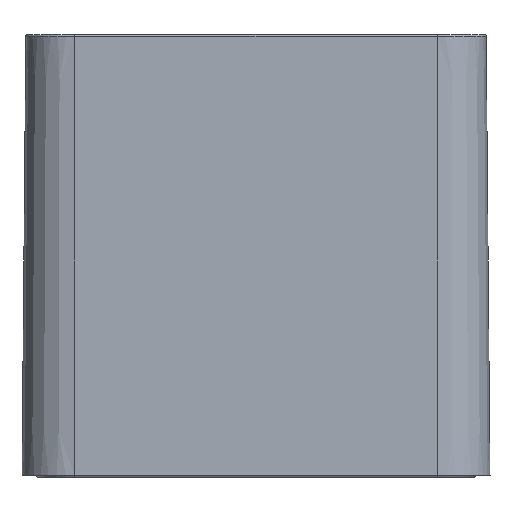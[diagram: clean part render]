
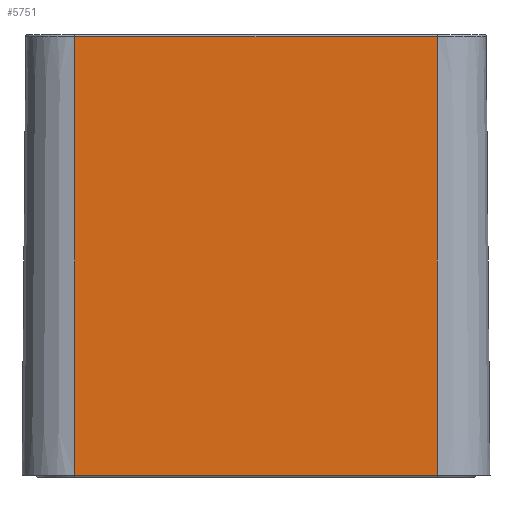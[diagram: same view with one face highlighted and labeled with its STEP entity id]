
A CAD part, front view. The second image highlights one B-rep face of the part: STEP entity #5751.
In plain terms, the highlighted planar face has unit normal (0, -1, 0.009).
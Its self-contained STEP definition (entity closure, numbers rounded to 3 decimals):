
#300 = EDGE_LOOP ( 'NONE', ( #24163, #1637, #474, #14473 ) ) ;
#474 = ORIENTED_EDGE ( 'NONE', *, *, #7581, .T. ) ;
#490 = CARTESIAN_POINT ( 'NONE',  ( -18.5, -16.002, 22.302 ) ) ;
#833 = VECTOR ( 'NONE', #14975, 1000. ) ;
#1123 = EDGE_CURVE ( 'NONE', #9798, #11239, #6626, .T. ) ;
#1637 = ORIENTED_EDGE ( 'NONE', *, *, #1123, .T. ) ;
#1968 = LINE ( 'NONE', #24157, #22747 ) ;
#2335 = CARTESIAN_POINT ( 'NONE',  ( -18.5, -16.002, 22.302 ) ) ;
#4037 = DIRECTION ( 'NONE',  ( 0., -0.009, -1. ) ) ;
#5751 = ADVANCED_FACE ( 'NONE', ( #9551 ), #23798, .T. ) ;
#6626 = LINE ( 'NONE', #2335, #833 ) ;
#7581 = EDGE_CURVE ( 'NONE', #11239, #10207, #24465, .T. ) ;
#8581 = EDGE_CURVE ( 'NONE', #10207, #8622, #1968, .T. ) ;
#8622 = VERTEX_POINT ( 'NONE', #11683 ) ;
#9551 = FACE_OUTER_BOUND ( 'NONE', #300, .T. ) ;
#9798 = VERTEX_POINT ( 'NONE', #19105 ) ;
#10137 = DIRECTION ( 'NONE',  ( 0., 0.009, 1. ) ) ;
#10207 = VERTEX_POINT ( 'NONE', #19976 ) ;
#11239 = VERTEX_POINT ( 'NONE', #490 ) ;
#11683 = CARTESIAN_POINT ( 'NONE',  ( 18.5, -16.393, -22.5 ) ) ;
#11841 = DIRECTION ( 'NONE',  ( 0., -1., 0.009 ) ) ;
#14473 = ORIENTED_EDGE ( 'NONE', *, *, #8581, .T. ) ;
#14975 = DIRECTION ( 'NONE',  ( -1., 0., 0. ) ) ;
#15124 = VECTOR ( 'NONE', #4037, 1000. ) ;
#15868 = DIRECTION ( 'NONE',  ( 0., -0.009, -1. ) ) ;
#18072 = LINE ( 'NONE', #18335, #20695 ) ;
#18335 = CARTESIAN_POINT ( 'NONE',  ( 18.5, -16., 22.5 ) ) ;
#18783 = EDGE_CURVE ( 'NONE', #8622, #9798, #18072, .T. ) ;
#18915 = AXIS2_PLACEMENT_3D ( 'NONE', #24189, #11841, #15868 ) ;
#19105 = CARTESIAN_POINT ( 'NONE',  ( 18.5, -16.002, 22.302 ) ) ;
#19976 = CARTESIAN_POINT ( 'NONE',  ( -18.5, -16.393, -22.5 ) ) ;
#20129 = DIRECTION ( 'NONE',  ( 1., 0., 0. ) ) ;
#20695 = VECTOR ( 'NONE', #10137, 1000. ) ;
#22469 = CARTESIAN_POINT ( 'NONE',  ( -18.5, -16., 22.5 ) ) ;
#22747 = VECTOR ( 'NONE', #20129, 1000. ) ;
#23798 = PLANE ( 'NONE',  #18915 ) ;
#24157 = CARTESIAN_POINT ( 'NONE',  ( 23.5, -16.393, -22.5 ) ) ;
#24163 = ORIENTED_EDGE ( 'NONE', *, *, #18783, .T. ) ;
#24189 = CARTESIAN_POINT ( 'NONE',  ( 23.5, -16., 22.5 ) ) ;
#24465 = LINE ( 'NONE', #22469, #15124 ) ;
